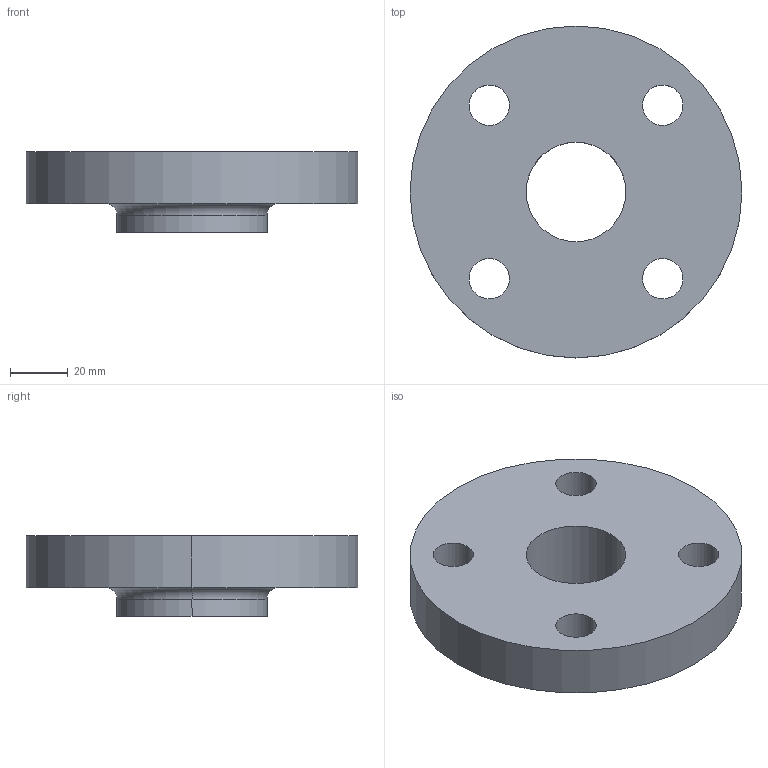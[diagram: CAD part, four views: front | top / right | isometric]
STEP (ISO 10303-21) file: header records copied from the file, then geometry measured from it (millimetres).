
FILE_DESCRIPTION (( 'STEP AP214' ), '1' );
FILE_NAME ('PN40 DN25 Type 12 - Type A Face.STEP', '2018-12-29T20:30:08', ( '' ), ( '' ), 'SwSTEP 2.0', 'SolidWorks 2019', '' );
FILE_SCHEMA (( 'AUTOMOTIVE_DESIGN' ));
Length unit declared in the file: millimetre
Products named in the file (1): PN40 DN25 Type 12 - Type A Face
Bounding box: 115 x 115 x 28 mm (x, y, z)
Volume: 171522.9 mm3; surface area: 31737.5 mm2
Topology: 1 solids, 1 shells, 19 faces, 46 edges, 30 vertices
Faces by surface type: cylinder 14, plane 3, torus 2
Entity records: 630 total; most frequent: DIRECTION 118, CARTESIAN_POINT 96, ORIENTED_EDGE 92, AXIS2_PLACEMENT_3D 52, EDGE_CURVE 46, CIRCLE 32, VERTEX_POINT 30, EDGE_LOOP 30
